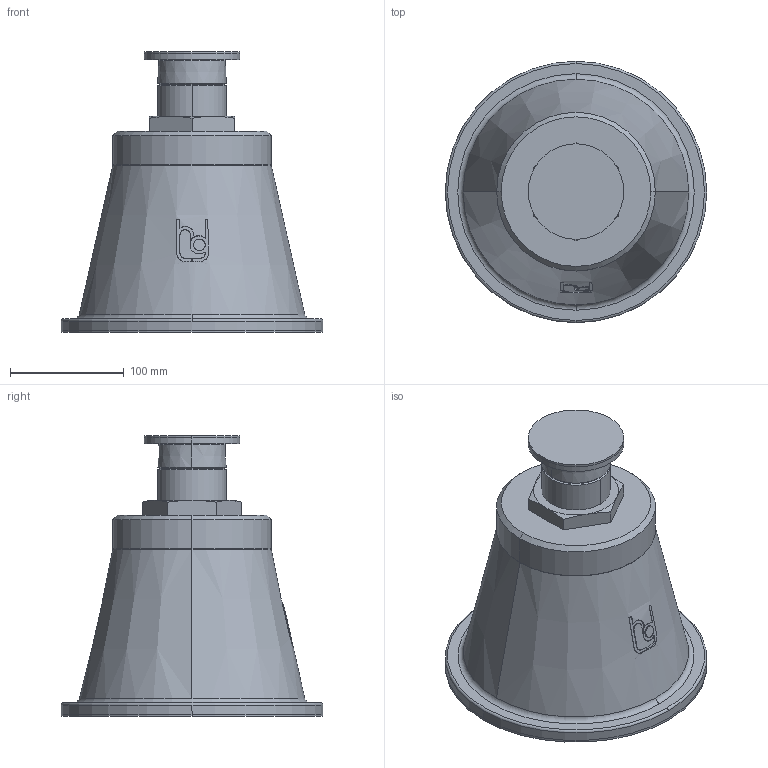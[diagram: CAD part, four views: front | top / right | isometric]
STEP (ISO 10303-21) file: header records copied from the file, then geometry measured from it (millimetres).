
FILE_DESCRIPTION(('STEP AP214'),'1');
FILE_NAME('RSRFN-09-V1.stp','2018-06-29T13:24:36',(' '),(' '),'Spatial InterOp 3D',' ',' ');
FILE_SCHEMA(('automotive_design'));
Length unit declared in the file: millimetre
Products named in the file (6): 1; 2; 3; 4; 5; 6
Bounding box: 230 x 230 x 247 mm (x, y, z)
Volume: 4623401.6 mm3; surface area: 342842 mm2
Topology: 6 solids, 6 shells, 111 faces, 264 edges, 170 vertices
Faces by surface type: cylinder 40, plane 40, cone 23, torus 8
Entity records: 4612 total; most frequent: CARTESIAN_POINT 1009, DIRECTION 567, ORIENTED_EDGE 528, EDGE_CURVE 264, AXIS2_PLACEMENT_3D 228, VERTEX_POINT 170, EDGE_LOOP 118, STYLED_ITEM 117
